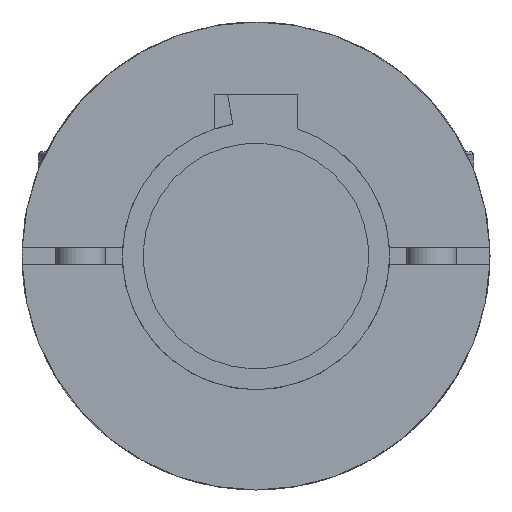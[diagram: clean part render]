
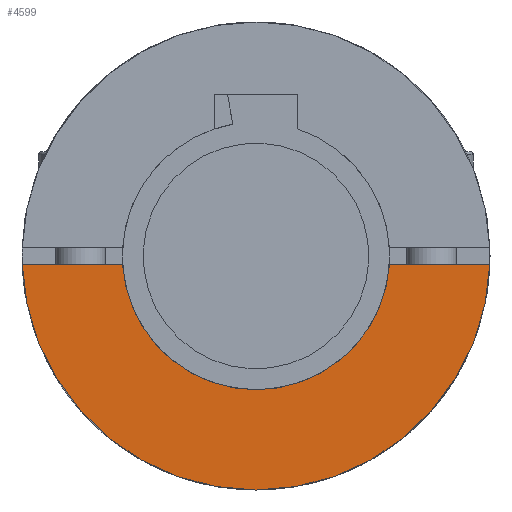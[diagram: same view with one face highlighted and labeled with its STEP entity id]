
A CAD part, left-side view. The second image highlights one B-rep face of the part: STEP entity #4599.
In plain terms, the highlighted planar face has unit normal (-1, 0, 0).
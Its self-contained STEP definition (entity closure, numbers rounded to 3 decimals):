
#192=PLANE('',#5025);
#397=FACE_OUTER_BOUND('',#652,.T.);
#652=EDGE_LOOP('',(#3919,#3920,#3921,#3922));
#1041=LINE('',#9994,#1487);
#1042=LINE('',#9995,#1488);
#1487=VECTOR('',#6145,21.054);
#1488=VECTOR('',#6146,21.054);
#1617=CIRCLE('',#4689,16.);
#1787=CIRCLE('',#5023,28.);
#1843=VERTEX_POINT('',#6509);
#1844=VERTEX_POINT('',#6510);
#2199=VERTEX_POINT('',#9986);
#2200=VERTEX_POINT('',#9988);
#2304=EDGE_CURVE('',#1843,#1844,#1617,.T.);
#2806=EDGE_CURVE('',#2200,#2199,#1787,.T.);
#2809=EDGE_CURVE('',#2200,#1844,#1041,.T.);
#2810=EDGE_CURVE('',#1843,#2199,#1042,.T.);
#3919=ORIENTED_EDGE('',*,*,#2304,.T.);
#3920=ORIENTED_EDGE('',*,*,#2809,.F.);
#3921=ORIENTED_EDGE('',*,*,#2806,.T.);
#3922=ORIENTED_EDGE('',*,*,#2810,.F.);
#4599=ADVANCED_FACE('',(#397),#192,.F.);
#4689=AXIS2_PLACEMENT_3D('',#6511,#5154,#5155);
#5023=AXIS2_PLACEMENT_3D('',#9989,#6138,#6139);
#5025=AXIS2_PLACEMENT_3D('',#9993,#6143,#6144);
#5154=DIRECTION('center_axis',(1.,0.,0.));
#5155=DIRECTION('ref_axis',(0.,0.,1.));
#6138=DIRECTION('center_axis',(-1.,0.,0.));
#6139=DIRECTION('ref_axis',(0.,0.999,-0.036));
#6143=DIRECTION('center_axis',(1.,0.,0.));
#6144=DIRECTION('ref_axis',(0.,0.,1.));
#6145=DIRECTION('',(0.,-1.,0.));
#6146=DIRECTION('',(0.,-1.,0.));
#6509=CARTESIAN_POINT('',(0.,-15.969,-1.));
#6510=CARTESIAN_POINT('',(0.,15.969,-1.));
#6511=CARTESIAN_POINT('Origin',(0.,0.,0.));
#9986=CARTESIAN_POINT('',(0.,-27.982,-1.));
#9988=CARTESIAN_POINT('',(0.,27.982,-1.));
#9989=CARTESIAN_POINT('Origin',(0.,0.,0.));
#9993=CARTESIAN_POINT('Origin',(0.,0.,28.));
#9994=CARTESIAN_POINT('',(0.,27.982,-1.));
#9995=CARTESIAN_POINT('',(0.,-6.928,-1.));
